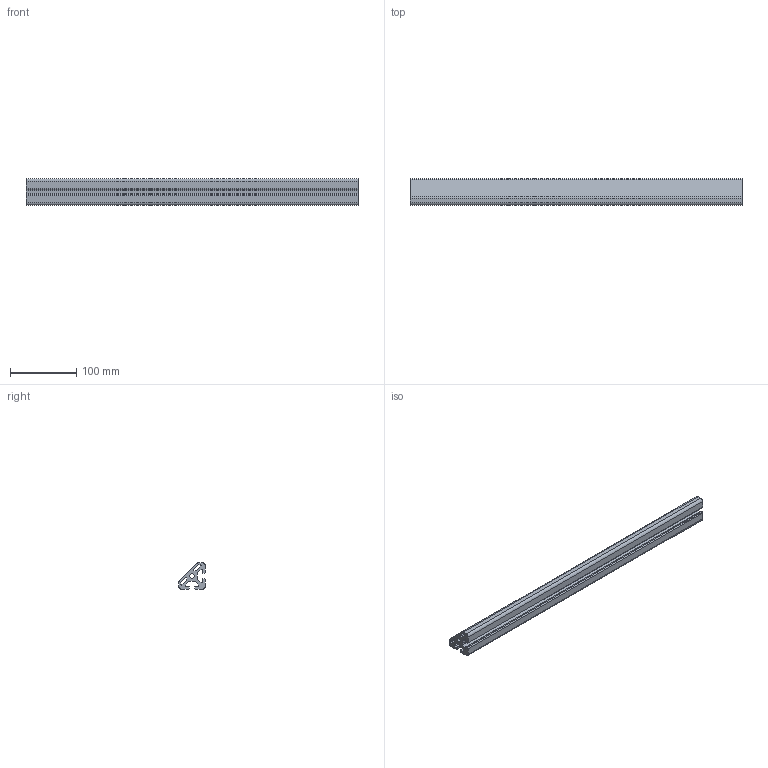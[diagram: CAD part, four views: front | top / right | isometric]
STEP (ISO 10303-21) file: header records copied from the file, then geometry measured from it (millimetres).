
FILE_DESCRIPTION (( 'STEP AP214' ), '1' );
FILE_NAME ('RP1100 8 40x40 Normal 45°.STEP', '2026-02-23T14:53:28', ( '' ), ( '' ), 'SwSTEP 2.0', 'SolidWorks 2026', '' );
FILE_SCHEMA (( 'AUTOMOTIVE_DESIGN' ));
Length unit declared in the file: millimetre
Products named in the file (1): RP1100 8 40x40 Normal 45°
Bounding box: 500 x 40 x 40 mm (x, y, z)
Volume: 370893 mm3; surface area: 151273.4 mm2
Topology: 1 solids, 1 shells, 64 faces, 186 edges, 124 vertices
Faces by surface type: cylinder 37, plane 27
Entity records: 2179 total; most frequent: DIRECTION 390, CARTESIAN_POINT 375, ORIENTED_EDGE 372, EDGE_CURVE 186, AXIS2_PLACEMENT_3D 139, VERTEX_POINT 124, VECTOR 112, LINE 112
